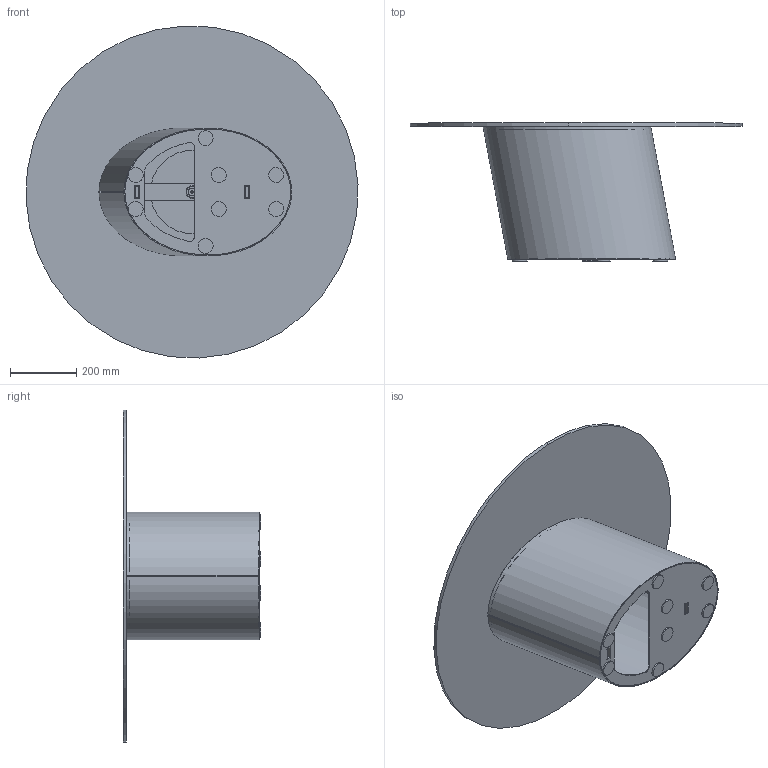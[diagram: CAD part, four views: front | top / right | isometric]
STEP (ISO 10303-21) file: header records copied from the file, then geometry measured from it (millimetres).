
FILE_DESCRIPTION (( 'STEP AP203' ), '1' );
FILE_NAME ('D203G.STEP', '2024-08-07T11:22:48', ( '' ), ( '' ), 'SwSTEP 2.0', 'SolidWorks 2022', '' );
FILE_SCHEMA (( 'CONFIG_CONTROL_DESIGN' ));
Length unit declared in the file: millimetre
Products named in the file (6): D203G; Parte2^Dxxxx-00-DORADO LOW; D2B000001-00-BASAMENTO DORADO LOW H420_Default<A macchina>; C1XCRMXX-00-piani Rotondi Cristallo_C03 D.100cm; CXXCRXX-00-Piani Rotondi in Cristallo CON PIASTRA_C03P PIANO CRISTALLO D.100cm; P0000003-00-STAFFA DI FISSAGGIO DIAMETRO 250_P0000003-250mm normale
Assembly tree (12 placements, depth 3):
  D203G
    D2B000001-00-BASAMENTO DORADO LOW H420_Default<A macchina>
    Parte2^Dxxxx-00-DORADO LOW  x8
    CXXCRXX-00-Piani Rotondi in Cristallo CON PIASTRA_C03P PIANO CRISTALLO D.100cm
      C1XCRMXX-00-piani Rotondi Cristallo_C03 D.100cm
      P0000003-00-STAFFA DI FISSAGGIO DIAMETRO 250_P0000003-250mm normale
Bounding box: 999.01 x 415 x 999.01 mm (x, y, z)
Volume: 10403259.9 mm3; surface area: 3386652.5 mm2
Topology: 17 solids, 17 shells, 179 faces, 433 edges, 288 vertices
Faces by surface type: plane 84, cylinder 75, bspline 14, cone 6
Entity records: 8488 total; most frequent: CARTESIAN_POINT 3911, ORIENTED_EDGE 782, DIRECTION 771, EDGE_CURVE 391, AXIS2_PLACEMENT_3D 279, VERTEX_POINT 260, VECTOR 213, LINE 213
